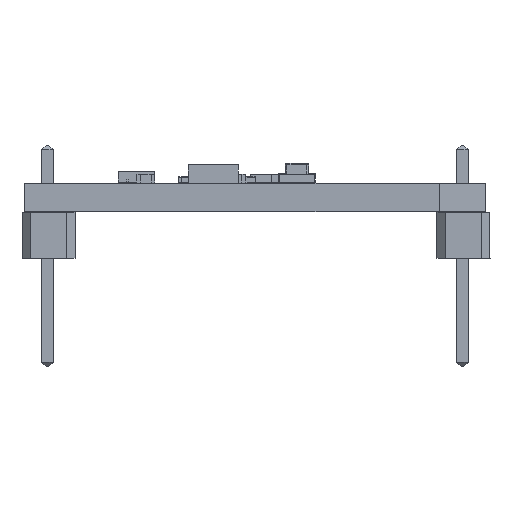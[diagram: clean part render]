
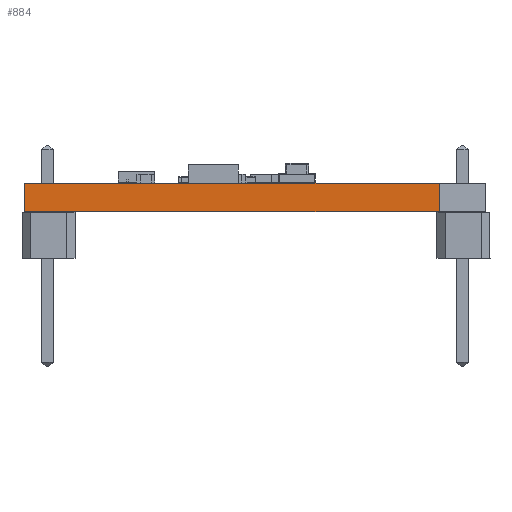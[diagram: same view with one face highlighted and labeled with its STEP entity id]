
A CAD part, front view. The second image highlights one B-rep face of the part: STEP entity #884.
In plain terms, the highlighted planar face has unit normal (0, -1, 0).
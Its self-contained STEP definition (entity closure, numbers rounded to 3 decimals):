
#859 = VERTEX_POINT('',#860);
#860 = CARTESIAN_POINT('',(21.59,-3.81,0.));
#866 = EDGE_CURVE('',#867,#859,#869,.T.);
#867 = VERTEX_POINT('',#868);
#868 = CARTESIAN_POINT('',(21.59,-3.81,-1.59));
#869 = LINE('',#870,#871);
#870 = CARTESIAN_POINT('',(21.59,-3.81,-1.59));
#871 = VECTOR('',#872,1.);
#872 = DIRECTION('',(0.,0.,1.));
#884 = ADVANCED_FACE('',(#885),#910,.T.);
#885 = FACE_BOUND('',#886,.T.);
#886 = EDGE_LOOP('',(#887,#888,#896,#904));
#887 = ORIENTED_EDGE('',*,*,#866,.T.);
#888 = ORIENTED_EDGE('',*,*,#889,.T.);
#889 = EDGE_CURVE('',#859,#890,#892,.T.);
#890 = VERTEX_POINT('',#891);
#891 = CARTESIAN_POINT('',(-1.27,-3.81,0.));
#892 = LINE('',#893,#894);
#893 = CARTESIAN_POINT('',(21.59,-3.81,0.));
#894 = VECTOR('',#895,1.);
#895 = DIRECTION('',(-1.,0.,0.));
#896 = ORIENTED_EDGE('',*,*,#897,.F.);
#897 = EDGE_CURVE('',#898,#890,#900,.T.);
#898 = VERTEX_POINT('',#899);
#899 = CARTESIAN_POINT('',(-1.27,-3.81,-1.59));
#900 = LINE('',#901,#902);
#901 = CARTESIAN_POINT('',(-1.27,-3.81,-1.59));
#902 = VECTOR('',#903,1.);
#903 = DIRECTION('',(0.,0.,1.));
#904 = ORIENTED_EDGE('',*,*,#905,.F.);
#905 = EDGE_CURVE('',#867,#898,#906,.T.);
#906 = LINE('',#907,#908);
#907 = CARTESIAN_POINT('',(21.59,-3.81,-1.59));
#908 = VECTOR('',#909,1.);
#909 = DIRECTION('',(-1.,0.,0.));
#910 = PLANE('',#911);
#911 = AXIS2_PLACEMENT_3D('',#912,#913,#914);
#912 = CARTESIAN_POINT('',(21.59,-3.81,-1.59));
#913 = DIRECTION('',(0.,-1.,0.));
#914 = DIRECTION('',(-1.,0.,0.));
